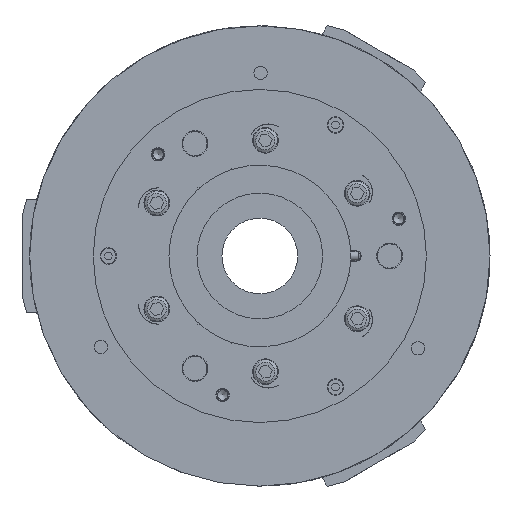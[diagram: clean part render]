
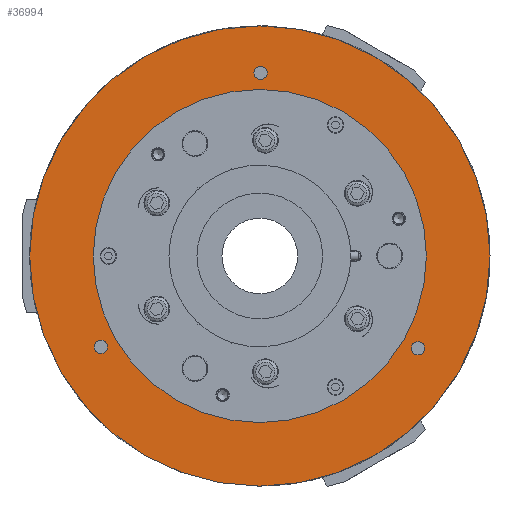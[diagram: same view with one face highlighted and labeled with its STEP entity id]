
A CAD part, left-side view. The second image highlights one B-rep face of the part: STEP entity #36994.
In plain terms, the highlighted planar face has unit normal (-1, 0, 0).
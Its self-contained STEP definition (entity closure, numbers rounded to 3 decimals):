
#1256 = CARTESIAN_POINT ( 'NONE',  ( -138., 105., -55.6 ) ) ;
#1322 = EDGE_LOOP ( 'NONE', ( #49439 ) ) ;
#1629 = FACE_BOUND ( 'NONE', #15660, .T. ) ;
#4894 = CIRCLE ( 'NONE', #38758, 110. ) ;
#5473 = VERTEX_POINT ( 'NONE', #74978 ) ;
#6788 = DIRECTION ( 'NONE',  ( 0., 0., -1. ) ) ;
#7636 = CARTESIAN_POINT ( 'NONE',  ( -138., -104.462, -60.933 ) ) ;
#10311 = DIRECTION ( 'NONE',  ( -1., 0., 0. ) ) ;
#10708 = CIRCLE ( 'NONE', #56044, 4.4 ) ;
#13094 = EDGE_LOOP ( 'NONE', ( #21993 ) ) ;
#13167 = DIRECTION ( 'NONE',  ( -1., 0., 0. ) ) ;
#13668 = DIRECTION ( 'NONE',  ( 0., 0., -1. ) ) ;
#15651 = EDGE_CURVE ( 'NONE', #32261, #32261, #10708, .T. ) ;
#15660 = EDGE_LOOP ( 'NONE', ( #59219 ) ) ;
#16303 = CIRCLE ( 'NONE', #50252, 4.4 ) ;
#16613 = AXIS2_PLACEMENT_3D ( 'NONE', #50648, #13167, #19316 ) ;
#16700 = DIRECTION ( 'NONE',  ( 0., 0., 1. ) ) ;
#17643 = AXIS2_PLACEMENT_3D ( 'NONE', #50651, #74668, #68308 ) ;
#18666 = VERTEX_POINT ( 'NONE', #28692 ) ;
#19316 = DIRECTION ( 'NONE',  ( 0., 0., 1. ) ) ;
#19564 = PLANE ( 'NONE',  #16613 ) ;
#21476 = CARTESIAN_POINT ( 'NONE',  ( -138., -0.538, 125.333 ) ) ;
#21993 = ORIENTED_EDGE ( 'NONE', *, *, #43656, .F. ) ;
#24939 = DIRECTION ( 'NONE',  ( 1., 0., 0. ) ) ;
#26598 = EDGE_LOOP ( 'NONE', ( #47742 ) ) ;
#28692 = CARTESIAN_POINT ( 'NONE',  ( -138., -104.462, -56.533 ) ) ;
#29907 = EDGE_CURVE ( 'NONE', #78128, #78128, #4894, .T. ) ;
#31348 = CARTESIAN_POINT ( 'NONE',  ( -138., 0., 0. ) ) ;
#32261 = VERTEX_POINT ( 'NONE', #1256 ) ;
#33217 = CIRCLE ( 'NONE', #74128, 152. ) ;
#34075 = FACE_BOUND ( 'NONE', #38388, .T. ) ;
#36994 = ADVANCED_FACE ( 'NONE', ( #47540, #48451, #34075, #1629, #52315 ), #19564, .T. ) ;
#37222 = CIRCLE ( 'NONE', #17643, 4.4 ) ;
#38388 = EDGE_LOOP ( 'NONE', ( #56546 ) ) ;
#38758 = AXIS2_PLACEMENT_3D ( 'NONE', #31348, #43407, #6788 ) ;
#38870 = CARTESIAN_POINT ( 'NONE',  ( -138., 0., -110. ) ) ;
#41646 = VERTEX_POINT ( 'NONE', #21476 ) ;
#43407 = DIRECTION ( 'NONE',  ( 1., 0., 0. ) ) ;
#43656 = EDGE_CURVE ( 'NONE', #5473, #5473, #33217, .T. ) ;
#47540 = FACE_BOUND ( 'NONE', #1322, .T. ) ;
#47742 = ORIENTED_EDGE ( 'NONE', *, *, #76564, .F. ) ;
#48451 = FACE_BOUND ( 'NONE', #26598, .T. ) ;
#49439 = ORIENTED_EDGE ( 'NONE', *, *, #70620, .F. ) ;
#50252 = AXIS2_PLACEMENT_3D ( 'NONE', #7636, #50428, #56843 ) ;
#50428 = DIRECTION ( 'NONE',  ( -1., 0., 0. ) ) ;
#50648 = CARTESIAN_POINT ( 'NONE',  ( -138., 76., -131.636 ) ) ;
#50651 = CARTESIAN_POINT ( 'NONE',  ( -138., -0.538, 120.933 ) ) ;
#52315 = FACE_OUTER_BOUND ( 'NONE', #13094, .T. ) ;
#52865 = CARTESIAN_POINT ( 'NONE',  ( -138., 105., -60. ) ) ;
#56044 = AXIS2_PLACEMENT_3D ( 'NONE', #52865, #10311, #16700 ) ;
#56546 = ORIENTED_EDGE ( 'NONE', *, *, #15651, .F. ) ;
#56843 = DIRECTION ( 'NONE',  ( 0., 0., 1. ) ) ;
#59219 = ORIENTED_EDGE ( 'NONE', *, *, #29907, .T. ) ;
#68308 = DIRECTION ( 'NONE',  ( 0., 0., 1. ) ) ;
#70620 = EDGE_CURVE ( 'NONE', #41646, #41646, #37222, .T. ) ;
#73857 = CARTESIAN_POINT ( 'NONE',  ( -138., 0., 0. ) ) ;
#74128 = AXIS2_PLACEMENT_3D ( 'NONE', #73857, #24939, #13668 ) ;
#74668 = DIRECTION ( 'NONE',  ( -1., 0., 0. ) ) ;
#74978 = CARTESIAN_POINT ( 'NONE',  ( -138., 0., -152. ) ) ;
#76564 = EDGE_CURVE ( 'NONE', #18666, #18666, #16303, .T. ) ;
#78128 = VERTEX_POINT ( 'NONE', #38870 ) ;
